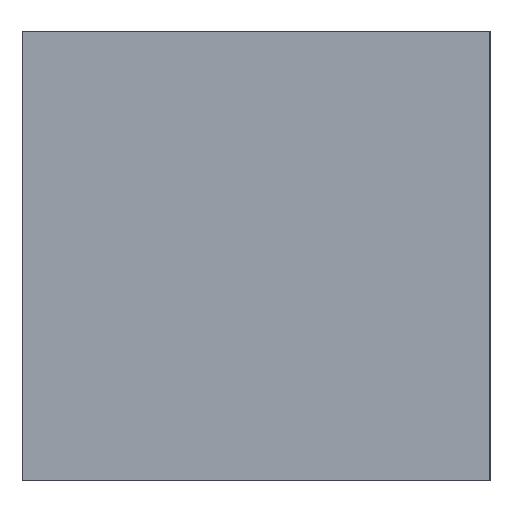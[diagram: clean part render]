
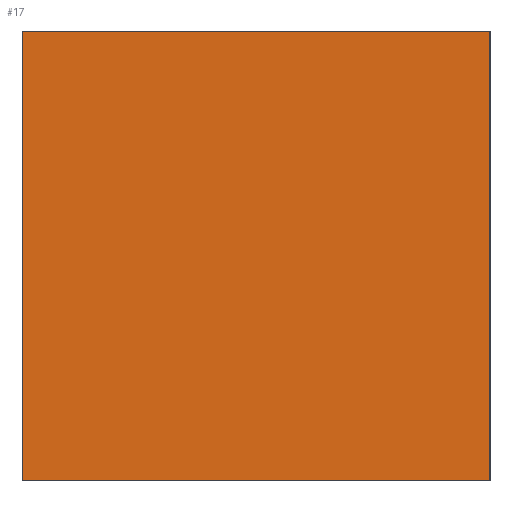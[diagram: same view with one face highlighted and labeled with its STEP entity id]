
A CAD part, left-side view. The second image highlights one B-rep face of the part: STEP entity #17.
In plain terms, the highlighted planar face has unit normal (-1, 0, 0).
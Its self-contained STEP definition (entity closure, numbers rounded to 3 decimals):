
#17 = ADVANCED_FACE('',(#18),#32,.F.);
#18 = FACE_BOUND('',#19,.F.);
#19 = EDGE_LOOP('',(#20,#55,#83,#111));
#20 = ORIENTED_EDGE('',*,*,#21,.F.);
#21 = EDGE_CURVE('',#22,#24,#26,.T.);
#22 = VERTEX_POINT('',#23);
#23 = CARTESIAN_POINT('',(-396.,-71.913,20.));
#24 = VERTEX_POINT('',#25);
#25 = CARTESIAN_POINT('',(-396.,-71.913,44.));
#26 = SURFACE_CURVE('',#27,(#31,#43),.PCURVE_S1.);
#27 = LINE('',#28,#29);
#28 = CARTESIAN_POINT('',(-396.,-71.913,20.));
#29 = VECTOR('',#30,1.);
#30 = DIRECTION('',(0.,0.,1.));
#31 = PCURVE('',#32,#37);
#32 = PLANE('',#33);
#33 = AXIS2_PLACEMENT_3D('',#34,#35,#36);
#34 = CARTESIAN_POINT('',(-396.,-71.913,20.));
#35 = DIRECTION('',(1.,0.,-0.));
#36 = DIRECTION('',(0.,0.,1.));
#37 = DEFINITIONAL_REPRESENTATION('',(#38),#42);
#38 = LINE('',#39,#40);
#39 = CARTESIAN_POINT('',(0.,0.));
#40 = VECTOR('',#41,1.);
#41 = DIRECTION('',(1.,0.));
#42 = ( GEOMETRIC_REPRESENTATION_CONTEXT(2) 
PARAMETRIC_REPRESENTATION_CONTEXT() REPRESENTATION_CONTEXT('2D SPACE',''
  ) );
#43 = PCURVE('',#44,#49);
#44 = PLANE('',#45);
#45 = AXIS2_PLACEMENT_3D('',#46,#47,#48);
#46 = CARTESIAN_POINT('',(-396.,-71.913,20.));
#47 = DIRECTION('',(-0.,1.,0.));
#48 = DIRECTION('',(0.,0.,1.));
#49 = DEFINITIONAL_REPRESENTATION('',(#50),#54);
#50 = LINE('',#51,#52);
#51 = CARTESIAN_POINT('',(0.,0.));
#52 = VECTOR('',#53,1.);
#53 = DIRECTION('',(1.,0.));
#54 = ( GEOMETRIC_REPRESENTATION_CONTEXT(2) 
PARAMETRIC_REPRESENTATION_CONTEXT() REPRESENTATION_CONTEXT('2D SPACE',''
  ) );
#55 = ORIENTED_EDGE('',*,*,#56,.T.);
#56 = EDGE_CURVE('',#22,#57,#59,.T.);
#57 = VERTEX_POINT('',#58);
#58 = CARTESIAN_POINT('',(-396.,-46.913,20.));
#59 = SURFACE_CURVE('',#60,(#64,#71),.PCURVE_S1.);
#60 = LINE('',#61,#62);
#61 = CARTESIAN_POINT('',(-396.,-71.913,20.));
#62 = VECTOR('',#63,1.);
#63 = DIRECTION('',(-0.,1.,0.));
#64 = PCURVE('',#32,#65);
#65 = DEFINITIONAL_REPRESENTATION('',(#66),#70);
#66 = LINE('',#67,#68);
#67 = CARTESIAN_POINT('',(0.,0.));
#68 = VECTOR('',#69,1.);
#69 = DIRECTION('',(0.,-1.));
#70 = ( GEOMETRIC_REPRESENTATION_CONTEXT(2) 
PARAMETRIC_REPRESENTATION_CONTEXT() REPRESENTATION_CONTEXT('2D SPACE',''
  ) );
#71 = PCURVE('',#72,#77);
#72 = PLANE('',#73);
#73 = AXIS2_PLACEMENT_3D('',#74,#75,#76);
#74 = CARTESIAN_POINT('',(-396.,-71.913,20.));
#75 = DIRECTION('',(0.,0.,1.));
#76 = DIRECTION('',(1.,0.,-0.));
#77 = DEFINITIONAL_REPRESENTATION('',(#78),#82);
#78 = LINE('',#79,#80);
#79 = CARTESIAN_POINT('',(0.,0.));
#80 = VECTOR('',#81,1.);
#81 = DIRECTION('',(0.,1.));
#82 = ( GEOMETRIC_REPRESENTATION_CONTEXT(2) 
PARAMETRIC_REPRESENTATION_CONTEXT() REPRESENTATION_CONTEXT('2D SPACE',''
  ) );
#83 = ORIENTED_EDGE('',*,*,#84,.T.);
#84 = EDGE_CURVE('',#57,#85,#87,.T.);
#85 = VERTEX_POINT('',#86);
#86 = CARTESIAN_POINT('',(-396.,-46.913,44.));
#87 = SURFACE_CURVE('',#88,(#92,#99),.PCURVE_S1.);
#88 = LINE('',#89,#90);
#89 = CARTESIAN_POINT('',(-396.,-46.913,20.));
#90 = VECTOR('',#91,1.);
#91 = DIRECTION('',(0.,0.,1.));
#92 = PCURVE('',#32,#93);
#93 = DEFINITIONAL_REPRESENTATION('',(#94),#98);
#94 = LINE('',#95,#96);
#95 = CARTESIAN_POINT('',(0.,-25.));
#96 = VECTOR('',#97,1.);
#97 = DIRECTION('',(1.,0.));
#98 = ( GEOMETRIC_REPRESENTATION_CONTEXT(2) 
PARAMETRIC_REPRESENTATION_CONTEXT() REPRESENTATION_CONTEXT('2D SPACE',''
  ) );
#99 = PCURVE('',#100,#105);
#100 = PLANE('',#101);
#101 = AXIS2_PLACEMENT_3D('',#102,#103,#104);
#102 = CARTESIAN_POINT('',(-396.,-46.913,20.));
#103 = DIRECTION('',(-0.,1.,0.));
#104 = DIRECTION('',(0.,0.,1.));
#105 = DEFINITIONAL_REPRESENTATION('',(#106),#110);
#106 = LINE('',#107,#108);
#107 = CARTESIAN_POINT('',(0.,0.));
#108 = VECTOR('',#109,1.);
#109 = DIRECTION('',(1.,0.));
#110 = ( GEOMETRIC_REPRESENTATION_CONTEXT(2) 
PARAMETRIC_REPRESENTATION_CONTEXT() REPRESENTATION_CONTEXT('2D SPACE',''
  ) );
#111 = ORIENTED_EDGE('',*,*,#112,.F.);
#112 = EDGE_CURVE('',#24,#85,#113,.T.);
#113 = SURFACE_CURVE('',#114,(#118,#125),.PCURVE_S1.);
#114 = LINE('',#115,#116);
#115 = CARTESIAN_POINT('',(-396.,-71.913,44.));
#116 = VECTOR('',#117,1.);
#117 = DIRECTION('',(-0.,1.,0.));
#118 = PCURVE('',#32,#119);
#119 = DEFINITIONAL_REPRESENTATION('',(#120),#124);
#120 = LINE('',#121,#122);
#121 = CARTESIAN_POINT('',(24.,0.));
#122 = VECTOR('',#123,1.);
#123 = DIRECTION('',(0.,-1.));
#124 = ( GEOMETRIC_REPRESENTATION_CONTEXT(2) 
PARAMETRIC_REPRESENTATION_CONTEXT() REPRESENTATION_CONTEXT('2D SPACE',''
  ) );
#125 = PCURVE('',#126,#131);
#126 = PLANE('',#127);
#127 = AXIS2_PLACEMENT_3D('',#128,#129,#130);
#128 = CARTESIAN_POINT('',(-396.,-71.913,44.));
#129 = DIRECTION('',(0.,0.,1.));
#130 = DIRECTION('',(1.,0.,-0.));
#131 = DEFINITIONAL_REPRESENTATION('',(#132),#136);
#132 = LINE('',#133,#134);
#133 = CARTESIAN_POINT('',(0.,0.));
#134 = VECTOR('',#135,1.);
#135 = DIRECTION('',(0.,1.));
#136 = ( GEOMETRIC_REPRESENTATION_CONTEXT(2) 
PARAMETRIC_REPRESENTATION_CONTEXT() REPRESENTATION_CONTEXT('2D SPACE',''
  ) );
